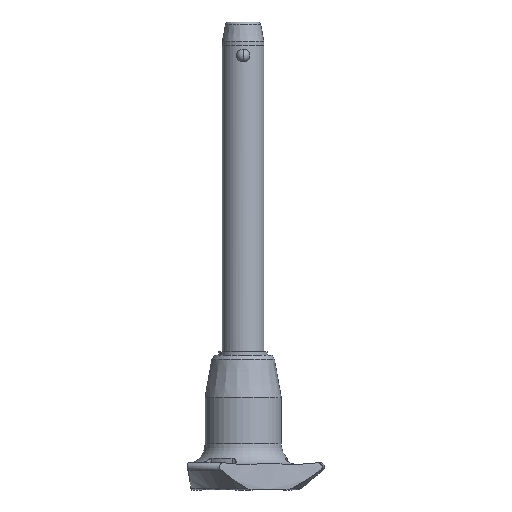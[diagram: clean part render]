
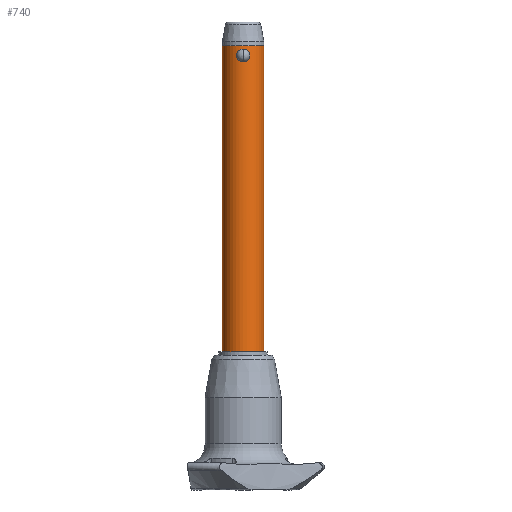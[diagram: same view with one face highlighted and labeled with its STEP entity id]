
A CAD part, front view. The second image highlights one B-rep face of the part: STEP entity #740.
In plain terms, the highlighted cylindrical face has radius 5 mm (diameter 10 mm), a partial arc.
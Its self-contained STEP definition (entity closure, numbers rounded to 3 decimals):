
#2 = CARTESIAN_POINT ( 'NONE',  ( 0., 0., -70. ) ) ;
#28 = CARTESIAN_POINT ( 'NONE',  ( 1.519, -4.764, 2.021 ) ) ;
#35 = EDGE_CURVE ( 'NONE', #2026, #83, #1506, .T. ) ;
#63 = CARTESIAN_POINT ( 'NONE',  ( -0.965, -4.907, 2.738 ) ) ;
#77 = CARTESIAN_POINT ( 'NONE',  ( -1.56, -4.751, 1.931 ) ) ;
#83 = VERTEX_POINT ( 'NONE', #482 ) ;
#121 = CARTESIAN_POINT ( 'NONE',  ( 5., 0., 3.84 ) ) ;
#147 = CARTESIAN_POINT ( 'NONE',  ( 0., -5., 3.033 ) ) ;
#231 = ORIENTED_EDGE ( 'NONE', *, *, #1591, .T. ) ;
#242 = CARTESIAN_POINT ( 'NONE',  ( 0.792, -4.938, 2.844 ) ) ;
#258 = CARTESIAN_POINT ( 'NONE',  ( -1.272, -4.838, 0.564 ) ) ;
#265 = ORIENTED_EDGE ( 'NONE', *, *, #2269, .F. ) ;
#302 = B_SPLINE_CURVE_WITH_KNOTS ( 'NONE', 3,
 ( #1587, #531, #1399, #2720, #1783, #63, #2035, #499, #930, #2279, #2251, #77, #1342, #1629, #2510, #1188, #977, #1177, #258, #1573, #2482, #2706, #518, #744, #2265, #304 ),
 .UNSPECIFIED., .F., .F.,
 ( 4, 2, 2, 2, 2, 2, 2, 2, 2, 2, 2, 2, 4 ),
 ( 0., 0.001, 0.001, 0.001, 0.002, 0.002, 0.002, 0.003, 0.003, 0.004, 0.004, 0.004, 0.005 ),
 .UNSPECIFIED. ) ;
#304 = CARTESIAN_POINT ( 'NONE',  ( 0., -5., 0. ) ) ;
#311 = ORIENTED_EDGE ( 'NONE', *, *, #904, .F. ) ;
#442 = CARTESIAN_POINT ( 'NONE',  ( 1.048, -4.889, 2.676 ) ) ;
#455 = CARTESIAN_POINT ( 'NONE',  ( 1.56, -4.751, 1.103 ) ) ;
#474 = DIRECTION ( 'NONE',  ( 1., 0., 0. ) ) ;
#482 = CARTESIAN_POINT ( 'NONE',  ( -5., 0., -70. ) ) ;
#499 = CARTESIAN_POINT ( 'NONE',  ( -1.197, -4.855, 2.539 ) ) ;
#513 = DIRECTION ( 'NONE',  ( 0., 0., -1. ) ) ;
#518 = CARTESIAN_POINT ( 'NONE',  ( -0.699, -4.952, 0.145 ) ) ;
#531 = CARTESIAN_POINT ( 'NONE',  ( -0.208, -5., 3.033 ) ) ;
#544 = CARTESIAN_POINT ( 'NONE',  ( 5., 0., -70. ) ) ;
#549 = AXIS2_PLACEMENT_3D ( 'NONE', #2017, #2450, #474 ) ;
#571 = DIRECTION ( 'NONE',  ( 0., 0., 1. ) ) ;
#613 = CARTESIAN_POINT ( 'NONE',  ( 1.594, -4.739, 1.721 ) ) ;
#614 = CARTESIAN_POINT ( 'NONE',  ( 0., -5., 0. ) ) ;
#689 = VERTEX_POINT ( 'NONE', #121 ) ;
#740 = ADVANCED_FACE ( 'NONE', ( #2623, #1717 ), #2586, .T. ) ;
#744 = CARTESIAN_POINT ( 'NONE',  ( -0.412, -4.987, 0.037 ) ) ;
#774 = AXIS2_PLACEMENT_3D ( 'NONE', #2, #1490, #885 ) ;
#822 = ORIENTED_EDGE ( 'NONE', *, *, #2178, .F. ) ;
#833 = CARTESIAN_POINT ( 'NONE',  ( -5., 0., 3.84 ) ) ;
#842 = CARTESIAN_POINT ( 'NONE',  ( 0.208, -5., 3.033 ) ) ;
#855 = CARTESIAN_POINT ( 'NONE',  ( 1.384, -4.805, 0.735 ) ) ;
#883 = CARTESIAN_POINT ( 'NONE',  ( 0.699, -4.952, 0.144 ) ) ;
#885 = DIRECTION ( 'NONE',  ( 1., 0., 0. ) ) ;
#896 = CARTESIAN_POINT ( 'NONE',  ( 0.966, -4.907, 2.738 ) ) ;
#904 = EDGE_CURVE ( 'NONE', #1820, #689, #965, .T. ) ;
#930 = CARTESIAN_POINT ( 'NONE',  ( -1.264, -4.838, 2.464 ) ) ;
#936 = ORIENTED_EDGE ( 'NONE', *, *, #2633, .F. ) ;
#965 = CIRCLE ( 'NONE', #549, 5. ) ;
#977 = CARTESIAN_POINT ( 'NONE',  ( -1.519, -4.764, 1.013 ) ) ;
#1061 = CARTESIAN_POINT ( 'NONE',  ( 1.047, -4.89, 0.356 ) ) ;
#1097 = CARTESIAN_POINT ( 'NONE',  ( 0.412, -4.987, 2.996 ) ) ;
#1115 = CARTESIAN_POINT ( 'NONE',  ( 1.551, -4.753, 1.922 ) ) ;
#1177 = CARTESIAN_POINT ( 'NONE',  ( -1.394, -4.802, 0.731 ) ) ;
#1188 = CARTESIAN_POINT ( 'NONE',  ( -1.551, -4.753, 1.11 ) ) ;
#1290 = CARTESIAN_POINT ( 'NONE',  ( 1.434, -4.79, 0.822 ) ) ;
#1317 = VERTEX_POINT ( 'NONE', #614 ) ;
#1323 = CARTESIAN_POINT ( 'NONE',  ( 0.205, -5., 0. ) ) ;
#1340 = CARTESIAN_POINT ( 'NONE',  ( 5., 0., -70. ) ) ;
#1342 = CARTESIAN_POINT ( 'NONE',  ( -1.604, -4.736, 1.724 ) ) ;
#1391 = VERTEX_POINT ( 'NONE', #147 ) ;
#1392 = EDGE_LOOP ( 'NONE', ( #822, #1976, #231, #311 ) ) ;
#1399 = CARTESIAN_POINT ( 'NONE',  ( -0.412, -4.987, 2.997 ) ) ;
#1490 = DIRECTION ( 'NONE',  ( 0., 0., 1. ) ) ;
#1506 = CIRCLE ( 'NONE', #2191, 5. ) ;
#1542 = CARTESIAN_POINT ( 'NONE',  ( 0.792, -4.938, 0.19 ) ) ;
#1573 = CARTESIAN_POINT ( 'NONE',  ( -1.047, -4.89, 0.357 ) ) ;
#1587 = CARTESIAN_POINT ( 'NONE',  ( 0., -5., 3.033 ) ) ;
#1591 = EDGE_CURVE ( 'NONE', #2026, #689, #2033, .T. ) ;
#1629 = CARTESIAN_POINT ( 'NONE',  ( -1.604, -4.736, 1.416 ) ) ;
#1717 = FACE_BOUND ( 'NONE', #2285, .T. ) ;
#1725 = CARTESIAN_POINT ( 'NONE',  ( 1.604, -4.736, 1.619 ) ) ;
#1755 = CARTESIAN_POINT ( 'NONE',  ( 1.395, -4.802, 2.301 ) ) ;
#1783 = CARTESIAN_POINT ( 'NONE',  ( -0.791, -4.938, 2.844 ) ) ;
#1820 = VERTEX_POINT ( 'NONE', #833 ) ;
#1944 = CARTESIAN_POINT ( 'NONE',  ( 0.412, -4.987, 0.037 ) ) ;
#1976 = ORIENTED_EDGE ( 'NONE', *, *, #35, .F. ) ;
#1984 = CARTESIAN_POINT ( 'NONE',  ( 0.966, -4.907, 0.296 ) ) ;
#2017 = CARTESIAN_POINT ( 'NONE',  ( 0., 0., 3.84 ) ) ;
#2026 = VERTEX_POINT ( 'NONE', #544 ) ;
#2033 = LINE ( 'NONE', #1340, #2110 ) ;
#2035 = CARTESIAN_POINT ( 'NONE',  ( -1.047, -4.89, 2.676 ) ) ;
#2070 = VECTOR ( 'NONE', #571, 1000. ) ;
#2080 = LINE ( 'NONE', #2566, #2070 ) ;
#2110 = VECTOR ( 'NONE', #2691, 1000. ) ;
#2178 = EDGE_CURVE ( 'NONE', #83, #1820, #2080, .T. ) ;
#2185 = CARTESIAN_POINT ( 'NONE',  ( 0., -5., 3.033 ) ) ;
#2191 = AXIS2_PLACEMENT_3D ( 'NONE', #2244, #513, #2675 ) ;
#2202 = CARTESIAN_POINT ( 'NONE',  ( 1.272, -4.838, 2.47 ) ) ;
#2244 = CARTESIAN_POINT ( 'NONE',  ( 0., 0., -70. ) ) ;
#2251 = CARTESIAN_POINT ( 'NONE',  ( -1.435, -4.79, 2.209 ) ) ;
#2265 = CARTESIAN_POINT ( 'NONE',  ( -0.205, -5., 0. ) ) ;
#2269 = EDGE_CURVE ( 'NONE', #1317, #1391, #2735, .T. ) ;
#2279 = CARTESIAN_POINT ( 'NONE',  ( -1.383, -4.805, 2.299 ) ) ;
#2285 = EDGE_LOOP ( 'NONE', ( #936, #265 ) ) ;
#2379 = CARTESIAN_POINT ( 'NONE',  ( 1.196, -4.855, 0.493 ) ) ;
#2394 = CARTESIAN_POINT ( 'NONE',  ( 1.265, -4.838, 0.57 ) ) ;
#2405 = CARTESIAN_POINT ( 'NONE',  ( 0.7, -4.952, 2.888 ) ) ;
#2417 = CARTESIAN_POINT ( 'NONE',  ( 0., -5., 0. ) ) ;
#2450 = DIRECTION ( 'NONE',  ( 0., 0., 1. ) ) ;
#2482 = CARTESIAN_POINT ( 'NONE',  ( -0.966, -4.907, 0.296 ) ) ;
#2510 = CARTESIAN_POINT ( 'NONE',  ( -1.594, -4.739, 1.312 ) ) ;
#2566 = CARTESIAN_POINT ( 'NONE',  ( -5., 0., -70. ) ) ;
#2586 = CYLINDRICAL_SURFACE ( 'NONE', #774, 5. ) ;
#2609 = CARTESIAN_POINT ( 'NONE',  ( 1.604, -4.736, 1.308 ) ) ;
#2623 = FACE_OUTER_BOUND ( 'NONE', #1392, .T. ) ;
#2633 = EDGE_CURVE ( 'NONE', #1391, #1317, #302, .T. ) ;
#2675 = DIRECTION ( 'NONE',  ( 1., 0., 0. ) ) ;
#2691 = DIRECTION ( 'NONE',  ( 0., 0., 1. ) ) ;
#2706 = CARTESIAN_POINT ( 'NONE',  ( -0.792, -4.938, 0.19 ) ) ;
#2720 = CARTESIAN_POINT ( 'NONE',  ( -0.7, -4.952, 2.888 ) ) ;
#2735 = B_SPLINE_CURVE_WITH_KNOTS ( 'NONE', 3,
 ( #2417, #1323, #1944, #883, #1542, #1984, #1061, #2379, #2394, #855, #1290, #455, #2609, #1725, #613, #1115, #28, #1755, #2202, #442, #896, #242, #2405, #1097, #842, #2185 ),
 .UNSPECIFIED., .F., .F.,
 ( 4, 2, 2, 2, 2, 2, 2, 2, 2, 2, 2, 2, 4 ),
 ( 0.005, 0.006, 0.006, 0.006, 0.006, 0.007, 0.007, 0.008, 0.008, 0.009, 0.009, 0.009, 0.01 ),
 .UNSPECIFIED. ) ;
